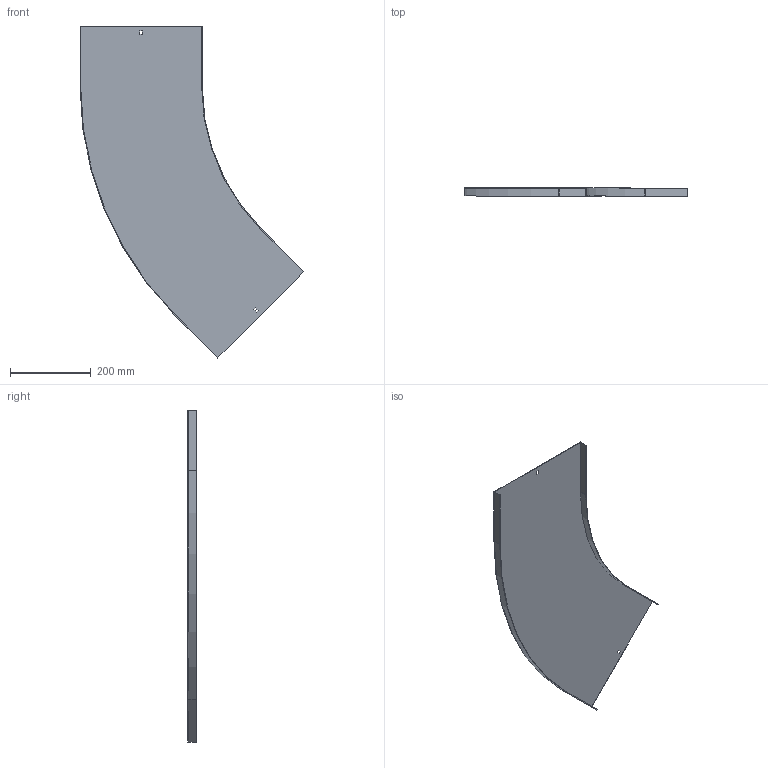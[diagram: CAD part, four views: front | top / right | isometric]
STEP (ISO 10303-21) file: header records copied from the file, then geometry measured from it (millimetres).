
FILE_DESCRIPTION (( 'STEP AP214' ), '1' );
FILE_NAME ('11N5R300.step', '2025-02-21T10:49:57', ( '' ), ( '' ), 'SwSTEP 2.0', 'SolidWorks 2023', '' );
FILE_SCHEMA (( 'AUTOMOTIVE_DESIGN' ));
Length unit declared in the file: millimetre
Products named in the file (1): 11N5R300
Bounding box: 555.07 x 20 x 822.81 mm (x, y, z)
Volume: 413184 mm3; surface area: 554456.5 mm2
Topology: 1 solids, 1 shells, 26 faces, 72 edges, 48 vertices
Faces by surface type: plane 22, cylinder 4
Entity records: 855 total; most frequent: CARTESIAN_POINT 147, ORIENTED_EDGE 144, DIRECTION 134, EDGE_CURVE 72, VECTOR 64, LINE 64, VERTEX_POINT 48, AXIS2_PLACEMENT_3D 35
